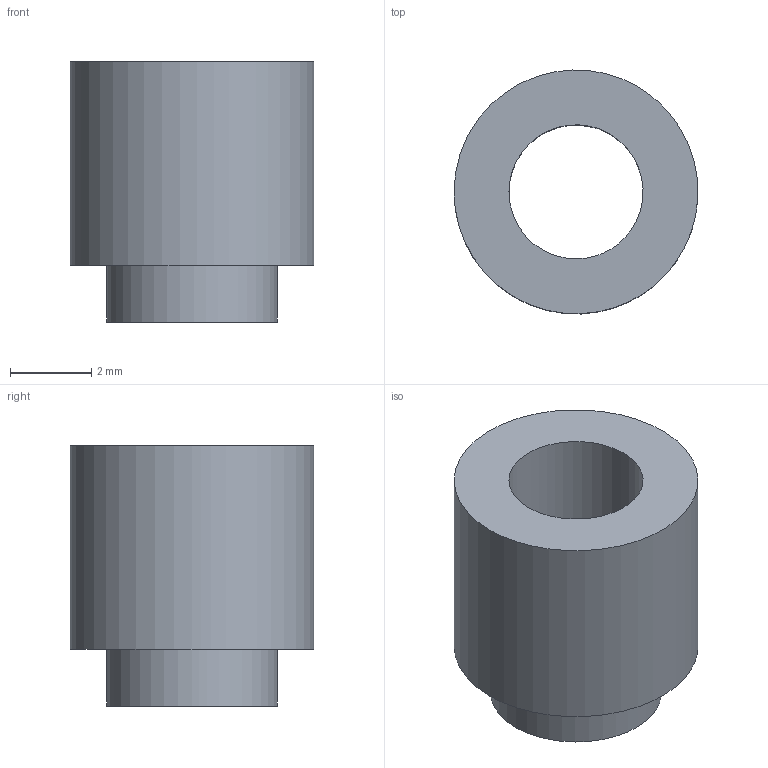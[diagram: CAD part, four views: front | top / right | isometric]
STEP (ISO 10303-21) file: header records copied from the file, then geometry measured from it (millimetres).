
FILE_DESCRIPTION(('FreeCAD Model'),'2;1');
FILE_NAME('Open CASCADE Shape Model','2026-03-20T17:23:15',('Author'),( ''),'Open CASCADE STEP processor 7.8','FreeCAD','Unknown');
FILE_SCHEMA(('AP242_MANAGED_MODEL_BASED_3D_ENGINEERING_MIM_LF. {1 0 10303 442 1 1 4 }'));
Length unit declared in the file: millimetre
Products named in the file (1): 1_transformed
Bounding box: 6 x 6 x 6.4 mm (x, y, z)
Volume: 106.9 mm3; surface area: 219 mm2
Topology: 1 solids, 1 shells, 6 faces, 9 edges, 6 vertices
Faces by surface type: bspline 6
Entity records: 201 total; most frequent: CARTESIAN_POINT 109, ORIENTED_EDGE 18, FACE_BOUND 9, EDGE_LOOP 9, EDGE_CURVE 9, ADVANCED_FACE 6, VERTEX_POINT 6, B_SPLINE_SURFACE_WITH_KNOTS 3
